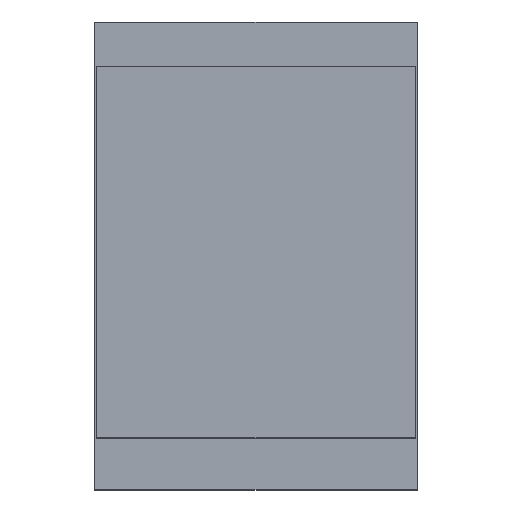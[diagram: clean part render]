
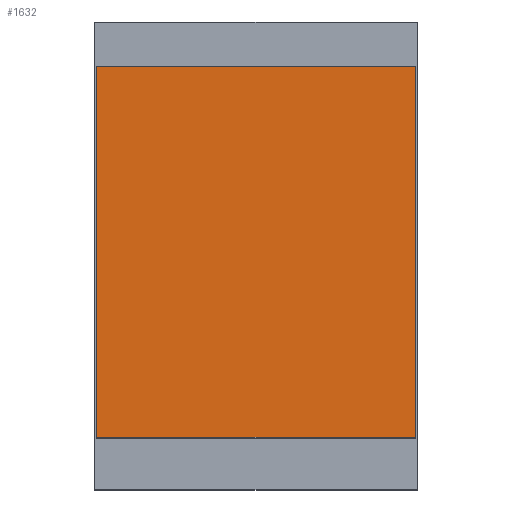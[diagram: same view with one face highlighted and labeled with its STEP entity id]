
A CAD part, top view. The second image highlights one B-rep face of the part: STEP entity #1632.
In plain terms, the highlighted planar face has unit normal (0, 0, 1).
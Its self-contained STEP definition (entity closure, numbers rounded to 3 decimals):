
#1223 = PLANE('',#1224);
#1224 = AXIS2_PLACEMENT_3D('',#1225,#1226,#1227);
#1225 = CARTESIAN_POINT('',(-12.275,-14.,-1.));
#1226 = DIRECTION('',(-1.,0.,0.));
#1227 = DIRECTION('',(0.,1.,0.));
#1251 = PLANE('',#1252);
#1252 = AXIS2_PLACEMENT_3D('',#1253,#1254,#1255);
#1253 = CARTESIAN_POINT('',(-12.275,14.6,-1.));
#1254 = DIRECTION('',(0.,1.,0.));
#1255 = DIRECTION('',(1.,0.,0.));
#1279 = PLANE('',#1280);
#1280 = AXIS2_PLACEMENT_3D('',#1281,#1282,#1283);
#1281 = CARTESIAN_POINT('',(12.275,14.6,-1.));
#1282 = DIRECTION('',(1.,0.,-0.));
#1283 = DIRECTION('',(0.,-1.,0.));
#1305 = PLANE('',#1306);
#1306 = AXIS2_PLACEMENT_3D('',#1307,#1308,#1309);
#1307 = CARTESIAN_POINT('',(12.275,-14.,-1.));
#1308 = DIRECTION('',(0.,-1.,0.));
#1309 = DIRECTION('',(-1.,0.,0.));
#1436 = VERTEX_POINT('',#1437);
#1437 = CARTESIAN_POINT('',(-12.275,-14.,0.));
#1458 = EDGE_CURVE('',#1436,#1459,#1461,.T.);
#1459 = VERTEX_POINT('',#1460);
#1460 = CARTESIAN_POINT('',(-12.275,14.6,0.));
#1461 = SURFACE_CURVE('',#1462,(#1466,#1473),.PCURVE_S1.);
#1462 = LINE('',#1463,#1464);
#1463 = CARTESIAN_POINT('',(-12.275,-14.,0.));
#1464 = VECTOR('',#1465,1.);
#1465 = DIRECTION('',(0.,1.,0.));
#1466 = PCURVE('',#1223,#1467);
#1467 = DEFINITIONAL_REPRESENTATION('',(#1468),#1472);
#1468 = LINE('',#1469,#1470);
#1469 = CARTESIAN_POINT('',(0.,-1.));
#1470 = VECTOR('',#1471,1.);
#1471 = DIRECTION('',(1.,0.));
#1472 = ( GEOMETRIC_REPRESENTATION_CONTEXT(2) 
PARAMETRIC_REPRESENTATION_CONTEXT() REPRESENTATION_CONTEXT('2D SPACE',''
  ) );
#1473 = PCURVE('',#1474,#1479);
#1474 = PLANE('',#1475);
#1475 = AXIS2_PLACEMENT_3D('',#1476,#1477,#1478);
#1476 = CARTESIAN_POINT('',(0.,0.3,0.));
#1477 = DIRECTION('',(-0.,-0.,-1.));
#1478 = DIRECTION('',(-1.,0.,0.));
#1479 = DEFINITIONAL_REPRESENTATION('',(#1480),#1484);
#1480 = LINE('',#1481,#1482);
#1481 = CARTESIAN_POINT('',(12.275,-14.3));
#1482 = VECTOR('',#1483,1.);
#1483 = DIRECTION('',(0.,1.));
#1484 = ( GEOMETRIC_REPRESENTATION_CONTEXT(2) 
PARAMETRIC_REPRESENTATION_CONTEXT() REPRESENTATION_CONTEXT('2D SPACE',''
  ) );
#1512 = VERTEX_POINT('',#1513);
#1513 = CARTESIAN_POINT('',(12.275,-14.,0.));
#1534 = EDGE_CURVE('',#1512,#1436,#1535,.T.);
#1535 = SURFACE_CURVE('',#1536,(#1540,#1547),.PCURVE_S1.);
#1536 = LINE('',#1537,#1538);
#1537 = CARTESIAN_POINT('',(12.275,-14.,0.));
#1538 = VECTOR('',#1539,1.);
#1539 = DIRECTION('',(-1.,0.,0.));
#1540 = PCURVE('',#1305,#1541);
#1541 = DEFINITIONAL_REPRESENTATION('',(#1542),#1546);
#1542 = LINE('',#1543,#1544);
#1543 = CARTESIAN_POINT('',(0.,-1.));
#1544 = VECTOR('',#1545,1.);
#1545 = DIRECTION('',(1.,0.));
#1546 = ( GEOMETRIC_REPRESENTATION_CONTEXT(2) 
PARAMETRIC_REPRESENTATION_CONTEXT() REPRESENTATION_CONTEXT('2D SPACE',''
  ) );
#1547 = PCURVE('',#1474,#1548);
#1548 = DEFINITIONAL_REPRESENTATION('',(#1549),#1553);
#1549 = LINE('',#1550,#1551);
#1550 = CARTESIAN_POINT('',(-12.275,-14.3));
#1551 = VECTOR('',#1552,1.);
#1552 = DIRECTION('',(1.,0.));
#1553 = ( GEOMETRIC_REPRESENTATION_CONTEXT(2) 
PARAMETRIC_REPRESENTATION_CONTEXT() REPRESENTATION_CONTEXT('2D SPACE',''
  ) );
#1561 = VERTEX_POINT('',#1562);
#1562 = CARTESIAN_POINT('',(12.275,14.6,0.));
#1583 = EDGE_CURVE('',#1561,#1512,#1584,.T.);
#1584 = SURFACE_CURVE('',#1585,(#1589,#1596),.PCURVE_S1.);
#1585 = LINE('',#1586,#1587);
#1586 = CARTESIAN_POINT('',(12.275,14.6,0.));
#1587 = VECTOR('',#1588,1.);
#1588 = DIRECTION('',(0.,-1.,0.));
#1589 = PCURVE('',#1279,#1590);
#1590 = DEFINITIONAL_REPRESENTATION('',(#1591),#1595);
#1591 = LINE('',#1592,#1593);
#1592 = CARTESIAN_POINT('',(0.,-1.));
#1593 = VECTOR('',#1594,1.);
#1594 = DIRECTION('',(1.,0.));
#1595 = ( GEOMETRIC_REPRESENTATION_CONTEXT(2) 
PARAMETRIC_REPRESENTATION_CONTEXT() REPRESENTATION_CONTEXT('2D SPACE',''
  ) );
#1596 = PCURVE('',#1474,#1597);
#1597 = DEFINITIONAL_REPRESENTATION('',(#1598),#1602);
#1598 = LINE('',#1599,#1600);
#1599 = CARTESIAN_POINT('',(-12.275,14.3));
#1600 = VECTOR('',#1601,1.);
#1601 = DIRECTION('',(0.,-1.));
#1602 = ( GEOMETRIC_REPRESENTATION_CONTEXT(2) 
PARAMETRIC_REPRESENTATION_CONTEXT() REPRESENTATION_CONTEXT('2D SPACE',''
  ) );
#1610 = EDGE_CURVE('',#1459,#1561,#1611,.T.);
#1611 = SURFACE_CURVE('',#1612,(#1616,#1623),.PCURVE_S1.);
#1612 = LINE('',#1613,#1614);
#1613 = CARTESIAN_POINT('',(-12.275,14.6,0.));
#1614 = VECTOR('',#1615,1.);
#1615 = DIRECTION('',(1.,0.,0.));
#1616 = PCURVE('',#1251,#1617);
#1617 = DEFINITIONAL_REPRESENTATION('',(#1618),#1622);
#1618 = LINE('',#1619,#1620);
#1619 = CARTESIAN_POINT('',(0.,-1.));
#1620 = VECTOR('',#1621,1.);
#1621 = DIRECTION('',(1.,0.));
#1622 = ( GEOMETRIC_REPRESENTATION_CONTEXT(2) 
PARAMETRIC_REPRESENTATION_CONTEXT() REPRESENTATION_CONTEXT('2D SPACE',''
  ) );
#1623 = PCURVE('',#1474,#1624);
#1624 = DEFINITIONAL_REPRESENTATION('',(#1625),#1629);
#1625 = LINE('',#1626,#1627);
#1626 = CARTESIAN_POINT('',(12.275,14.3));
#1627 = VECTOR('',#1628,1.);
#1628 = DIRECTION('',(-1.,0.));
#1629 = ( GEOMETRIC_REPRESENTATION_CONTEXT(2) 
PARAMETRIC_REPRESENTATION_CONTEXT() REPRESENTATION_CONTEXT('2D SPACE',''
  ) );
#1632 = ADVANCED_FACE('',(#1633),#1474,.F.);
#1633 = FACE_BOUND('',#1634,.F.);
#1634 = EDGE_LOOP('',(#1635,#1636,#1637,#1638));
#1635 = ORIENTED_EDGE('',*,*,#1610,.T.);
#1636 = ORIENTED_EDGE('',*,*,#1583,.T.);
#1637 = ORIENTED_EDGE('',*,*,#1534,.T.);
#1638 = ORIENTED_EDGE('',*,*,#1458,.T.);
